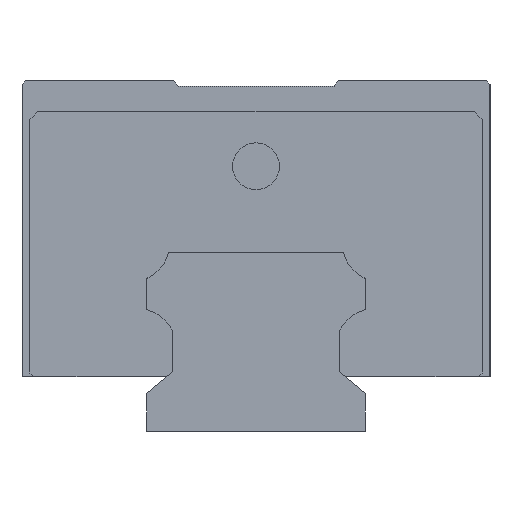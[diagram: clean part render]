
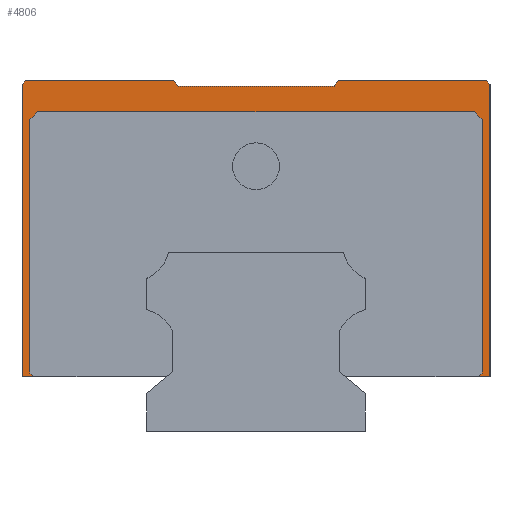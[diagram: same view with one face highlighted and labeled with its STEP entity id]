
A CAD part, left-side view. The second image highlights one B-rep face of the part: STEP entity #4806.
In plain terms, the highlighted planar face has unit normal (-1, 0, 0).
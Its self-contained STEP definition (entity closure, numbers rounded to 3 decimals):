
#42 = CARTESIAN_POINT ( 'NONE',  ( -34.65, -10., 44.25 ) ) ;
#104 = VECTOR ( 'NONE', #4161, 1000. ) ;
#140 = DIRECTION ( 'NONE',  ( 0., 0., -1. ) ) ;
#141 = DIRECTION ( 'NONE',  ( 0., -1., 0. ) ) ;
#170 = CARTESIAN_POINT ( 'NONE',  ( -34.65, 30., 45. ) ) ;
#181 = LINE ( 'NONE', #1941, #4344 ) ;
#236 = DIRECTION ( 'NONE',  ( 0., -0.707, -0.707 ) ) ;
#302 = CARTESIAN_POINT ( 'NONE',  ( -34.65, -30., 44.5 ) ) ;
#371 = AXIS2_PLACEMENT_3D ( 'NONE', #2775, #4575, #538 ) ;
#388 = DIRECTION ( 'NONE',  ( 0., 0.707, -0.707 ) ) ;
#389 = EDGE_CURVE ( 'NONE', #4792, #4594, #3249, .T. ) ;
#390 = EDGE_CURVE ( 'NONE', #3816, #5725, #1012, .T. ) ;
#538 = DIRECTION ( 'NONE',  ( 0., 1., 0. ) ) ;
#578 = VERTEX_POINT ( 'NONE', #3895 ) ;
#611 = CARTESIAN_POINT ( 'NONE',  ( -34.65, 28.5, 7. ) ) ;
#639 = CARTESIAN_POINT ( 'NONE',  ( -34.65, 30., 45. ) ) ;
#740 = ORIENTED_EDGE ( 'NONE', *, *, #1975, .T. ) ;
#820 = VERTEX_POINT ( 'NONE', #4687 ) ;
#829 = LINE ( 'NONE', #2623, #2000 ) ;
#849 = EDGE_CURVE ( 'NONE', #2954, #4892, #2350, .T. ) ;
#892 = VERTEX_POINT ( 'NONE', #302 ) ;
#898 = ORIENTED_EDGE ( 'NONE', *, *, #5818, .T. ) ;
#956 = VECTOR ( 'NONE', #388, 1000. ) ;
#1012 = LINE ( 'NONE', #4162, #5557 ) ;
#1040 = DIRECTION ( 'NONE',  ( 0., 1., 0. ) ) ;
#1083 = ORIENTED_EDGE ( 'NONE', *, *, #2717, .T. ) ;
#1088 = EDGE_CURVE ( 'NONE', #892, #3816, #829, .T. ) ;
#1120 = ORIENTED_EDGE ( 'NONE', *, *, #3887, .F. ) ;
#1130 = LINE ( 'NONE', #3845, #2219 ) ;
#1141 = ORIENTED_EDGE ( 'NONE', *, *, #849, .F. ) ;
#1170 = ORIENTED_EDGE ( 'NONE', *, *, #2391, .T. ) ;
#1172 = VERTEX_POINT ( 'NONE', #4673 ) ;
#1180 = LINE ( 'NONE', #1802, #3491 ) ;
#1269 = ORIENTED_EDGE ( 'NONE', *, *, #1904, .T. ) ;
#1279 = EDGE_CURVE ( 'NONE', #5092, #4678, #2902, .T. ) ;
#1299 = CARTESIAN_POINT ( 'NONE',  ( -34.65, 29., 40. ) ) ;
#1333 = CARTESIAN_POINT ( 'NONE',  ( -34.65, 10., 44.25 ) ) ;
#1446 = VECTOR ( 'NONE', #4074, 1000. ) ;
#1505 = FACE_OUTER_BOUND ( 'NONE', #3094, .T. ) ;
#1537 = CARTESIAN_POINT ( 'NONE',  ( -34.65, -30., 44.5 ) ) ;
#1563 = VERTEX_POINT ( 'NONE', #3308 ) ;
#1641 = DIRECTION ( 'NONE',  ( 0., 0.707, -0.707 ) ) ;
#1702 = VERTEX_POINT ( 'NONE', #2595 ) ;
#1802 = CARTESIAN_POINT ( 'NONE',  ( -34.65, 28., 41. ) ) ;
#1822 = CARTESIAN_POINT ( 'NONE',  ( -34.65, -29., 7.5 ) ) ;
#1841 = ORIENTED_EDGE ( 'NONE', *, *, #5240, .T. ) ;
#1904 = EDGE_CURVE ( 'NONE', #1702, #820, #3664, .T. ) ;
#1941 = CARTESIAN_POINT ( 'NONE',  ( -34.65, -29., 40. ) ) ;
#1948 = VERTEX_POINT ( 'NONE', #5009 ) ;
#1975 = EDGE_CURVE ( 'NONE', #4594, #578, #5096, .T. ) ;
#2000 = VECTOR ( 'NONE', #140, 1000. ) ;
#2060 = LINE ( 'NONE', #1822, #956 ) ;
#2084 = ORIENTED_EDGE ( 'NONE', *, *, #1279, .F. ) ;
#2219 = VECTOR ( 'NONE', #5217, 1000. ) ;
#2274 = EDGE_CURVE ( 'NONE', #3373, #1563, #1180, .T. ) ;
#2350 = LINE ( 'NONE', #3328, #4759 ) ;
#2359 = CARTESIAN_POINT ( 'NONE',  ( -34.65, -10., 44.25 ) ) ;
#2391 = EDGE_CURVE ( 'NONE', #4663, #1172, #181, .T. ) ;
#2460 = LINE ( 'NONE', #4258, #5562 ) ;
#2523 = VECTOR ( 'NONE', #236, 1000. ) ;
#2530 = LINE ( 'NONE', #5679, #3639 ) ;
#2595 = CARTESIAN_POINT ( 'NONE',  ( -34.65, 29., 7.5 ) ) ;
#2623 = CARTESIAN_POINT ( 'NONE',  ( -34.65, -30., 45. ) ) ;
#2717 = EDGE_CURVE ( 'NONE', #1172, #5725, #2060, .T. ) ;
#2775 = CARTESIAN_POINT ( 'NONE',  ( -34.65, -30., 45. ) ) ;
#2791 = CARTESIAN_POINT ( 'NONE',  ( -34.65, -28., 41. ) ) ;
#2821 = DIRECTION ( 'NONE',  ( 0., 0.707, 0.707 ) ) ;
#2827 = DIRECTION ( 'NONE',  ( 0., 0., -1. ) ) ;
#2832 = DIRECTION ( 'NONE',  ( 0., 0.643, 0.766 ) ) ;
#2902 = LINE ( 'NONE', #170, #4451 ) ;
#2952 = CARTESIAN_POINT ( 'NONE',  ( -34.65, -28.5, 7. ) ) ;
#2954 = VERTEX_POINT ( 'NONE', #5025 ) ;
#3002 = EDGE_CURVE ( 'NONE', #1948, #2954, #2460, .T. ) ;
#3094 = EDGE_LOOP ( 'NONE', ( #4837, #4240, #1269, #5589, #4085, #1841, #1170, #1083, #4856, #3107, #3141, #2084, #898, #3729, #740, #1120, #3711, #1141 ) ) ;
#3099 = EDGE_CURVE ( 'NONE', #892, #4678, #5576, .T. ) ;
#3107 = ORIENTED_EDGE ( 'NONE', *, *, #1088, .F. ) ;
#3141 = ORIENTED_EDGE ( 'NONE', *, *, #3099, .T. ) ;
#3186 = EDGE_CURVE ( 'NONE', #4566, #4892, #2530, .T. ) ;
#3190 = CARTESIAN_POINT ( 'NONE',  ( -34.65, 29., 7.5 ) ) ;
#3244 = PLANE ( 'NONE',  #371 ) ;
#3249 = LINE ( 'NONE', #2359, #4805 ) ;
#3308 = CARTESIAN_POINT ( 'NONE',  ( -34.65, -28., 41. ) ) ;
#3328 = CARTESIAN_POINT ( 'NONE',  ( -34.65, 30., 7. ) ) ;
#3373 = VERTEX_POINT ( 'NONE', #4894 ) ;
#3491 = VECTOR ( 'NONE', #3600, 1000. ) ;
#3593 = VECTOR ( 'NONE', #2832, 1000. ) ;
#3600 = DIRECTION ( 'NONE',  ( 0., -1., 0. ) ) ;
#3639 = VECTOR ( 'NONE', #1641, 1000. ) ;
#3652 = DIRECTION ( 'NONE',  ( 0., -0.707, 0.707 ) ) ;
#3664 = LINE ( 'NONE', #3190, #1446 ) ;
#3711 = ORIENTED_EDGE ( 'NONE', *, *, #3186, .T. ) ;
#3729 = ORIENTED_EDGE ( 'NONE', *, *, #389, .T. ) ;
#3813 = CARTESIAN_POINT ( 'NONE',  ( -34.65, 29.5, 45. ) ) ;
#3816 = VERTEX_POINT ( 'NONE', #4886 ) ;
#3845 = CARTESIAN_POINT ( 'NONE',  ( -34.65, -10.629, 45. ) ) ;
#3887 = EDGE_CURVE ( 'NONE', #4566, #578, #4198, .T. ) ;
#3895 = CARTESIAN_POINT ( 'NONE',  ( -34.65, 10.629, 45. ) ) ;
#4074 = DIRECTION ( 'NONE',  ( 0., 0., 1. ) ) ;
#4085 = ORIENTED_EDGE ( 'NONE', *, *, #2274, .T. ) ;
#4161 = DIRECTION ( 'NONE',  ( 0., 0.707, 0.707 ) ) ;
#4162 = CARTESIAN_POINT ( 'NONE',  ( -34.65, -30., 7. ) ) ;
#4198 = LINE ( 'NONE', #639, #4499 ) ;
#4232 = LINE ( 'NONE', #611, #5536 ) ;
#4240 = ORIENTED_EDGE ( 'NONE', *, *, #5310, .T. ) ;
#4258 = CARTESIAN_POINT ( 'NONE',  ( -34.65, 11.769, 7. ) ) ;
#4282 = DIRECTION ( 'NONE',  ( 0., -1., 0. ) ) ;
#4344 = VECTOR ( 'NONE', #2827, 1000. ) ;
#4361 = CARTESIAN_POINT ( 'NONE',  ( -34.65, -10.629, 45. ) ) ;
#4451 = VECTOR ( 'NONE', #4282, 1000. ) ;
#4499 = VECTOR ( 'NONE', #141, 1000. ) ;
#4566 = VERTEX_POINT ( 'NONE', #3813 ) ;
#4575 = DIRECTION ( 'NONE',  ( 1., 0., 0. ) ) ;
#4594 = VERTEX_POINT ( 'NONE', #1333 ) ;
#4604 = CARTESIAN_POINT ( 'NONE',  ( -34.65, 10., 44.25 ) ) ;
#4630 = DIRECTION ( 'NONE',  ( 0., 0., 1. ) ) ;
#4663 = VERTEX_POINT ( 'NONE', #4842 ) ;
#4673 = CARTESIAN_POINT ( 'NONE',  ( -34.65, -29., 7.5 ) ) ;
#4678 = VERTEX_POINT ( 'NONE', #5399 ) ;
#4687 = CARTESIAN_POINT ( 'NONE',  ( -34.65, 29., 40. ) ) ;
#4759 = VECTOR ( 'NONE', #4630, 1000. ) ;
#4792 = VERTEX_POINT ( 'NONE', #42 ) ;
#4804 = CARTESIAN_POINT ( 'NONE',  ( -34.65, 30., 44.5 ) ) ;
#4805 = VECTOR ( 'NONE', #5601, 1000. ) ;
#4806 = ADVANCED_FACE ( 'NONE', ( #1505 ), #3244, .F. ) ;
#4837 = ORIENTED_EDGE ( 'NONE', *, *, #3002, .F. ) ;
#4842 = CARTESIAN_POINT ( 'NONE',  ( -34.65, -29., 40. ) ) ;
#4856 = ORIENTED_EDGE ( 'NONE', *, *, #390, .F. ) ;
#4886 = CARTESIAN_POINT ( 'NONE',  ( -34.65, -30., 7. ) ) ;
#4892 = VERTEX_POINT ( 'NONE', #4804 ) ;
#4894 = CARTESIAN_POINT ( 'NONE',  ( -34.65, 28., 41. ) ) ;
#4896 = LINE ( 'NONE', #1299, #5060 ) ;
#5009 = CARTESIAN_POINT ( 'NONE',  ( -34.65, 28.5, 7. ) ) ;
#5025 = CARTESIAN_POINT ( 'NONE',  ( -34.65, 30., 7. ) ) ;
#5060 = VECTOR ( 'NONE', #3652, 1000. ) ;
#5088 = EDGE_CURVE ( 'NONE', #820, #3373, #4896, .T. ) ;
#5092 = VERTEX_POINT ( 'NONE', #4361 ) ;
#5096 = LINE ( 'NONE', #4604, #3593 ) ;
#5217 = DIRECTION ( 'NONE',  ( 0., 0.643, -0.766 ) ) ;
#5240 = EDGE_CURVE ( 'NONE', #1563, #4663, #5529, .T. ) ;
#5310 = EDGE_CURVE ( 'NONE', #1948, #1702, #4232, .T. ) ;
#5399 = CARTESIAN_POINT ( 'NONE',  ( -34.65, -29.5, 45. ) ) ;
#5529 = LINE ( 'NONE', #2791, #2523 ) ;
#5536 = VECTOR ( 'NONE', #2821, 1000. ) ;
#5557 = VECTOR ( 'NONE', #1040, 1000. ) ;
#5562 = VECTOR ( 'NONE', #5750, 1000. ) ;
#5576 = LINE ( 'NONE', #1537, #104 ) ;
#5589 = ORIENTED_EDGE ( 'NONE', *, *, #5088, .T. ) ;
#5601 = DIRECTION ( 'NONE',  ( 0., 1., 0. ) ) ;
#5679 = CARTESIAN_POINT ( 'NONE',  ( -34.65, 29.5, 45. ) ) ;
#5725 = VERTEX_POINT ( 'NONE', #2952 ) ;
#5750 = DIRECTION ( 'NONE',  ( 0., 1., 0. ) ) ;
#5818 = EDGE_CURVE ( 'NONE', #5092, #4792, #1130, .T. ) ;
